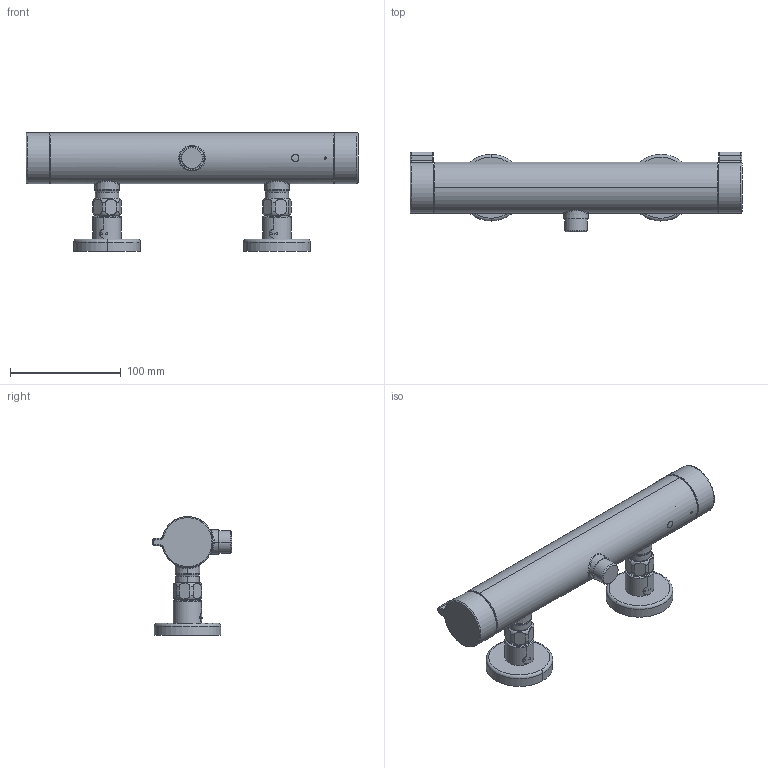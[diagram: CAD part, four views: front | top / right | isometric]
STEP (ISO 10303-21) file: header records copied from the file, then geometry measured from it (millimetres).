
FILE_DESCRIPTION((''),'2;1');
FILE_NAME('26009110_SW0001','2019-10-16T15:37:57',('SN986'),(''),'CREO PARAMETRIC BY PTC INC, 2018500','CREO PARAMETRIC BY PTC INC, 2018500','');
FILE_SCHEMA(('CONFIG_CONTROL_DESIGN'));
Length unit declared in the file: millimetre
Products named in the file (1): 26009110_SW0001
Bounding box: 299.12 x 72 x 107.1 mm (x, y, z)
Volume: 271550 mm3; surface area: 112132.4 mm2
Topology: 5 solids, 6 shells, 345 faces, 744 edges, 440 vertices
Faces by surface type: torus 114, cylinder 98, plane 63, cone 32, bspline 32, sphere 6
Entity records: 14126 total; most frequent: CARTESIAN_POINT 6633, DIRECTION 1686, ORIENTED_EDGE 1488, AXIS2_PLACEMENT_3D 765, EDGE_CURVE 744, CIRCLE 452, VERTEX_POINT 440, EDGE_LOOP 378
